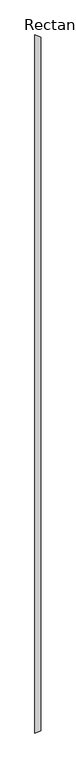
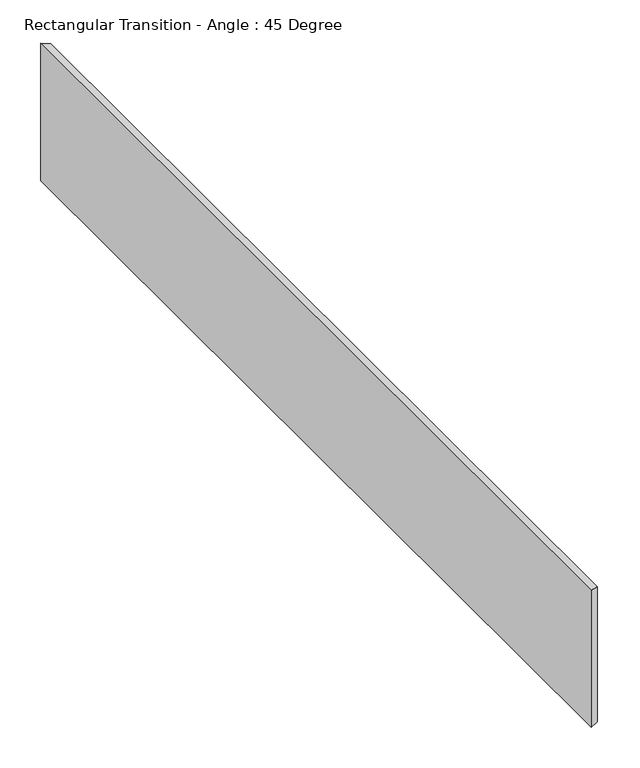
"""IFC4 building model written with IfcOpenShell, lengths in millimetres: duct fitting geometry, Rectangular Transition - Angle : 45 Degree."""

from ifc_helpers import new_model, si_unit, origin, place, context, project, spatial, faceted_brep, source, transform, mapped, element, save


def rectangular_transition_angle_45_degree_4bc87dcf(model_context):
    return source(origin(), model_context, "Body", "Brep", [
        faceted_brep([(11.4976921, -673.1, 101.6), (11.4976921, -673.1, -101.6), (11.4976921, 673.1, -101.6), (11.4976921, 673.1, 101.6), (0.0, -677.8625, 103.1875), (0.0, 677.8625, 103.1875), (0.0, 677.8625, -103.1875), (0.0, -677.8625, -103.1875)], [[[0, 1, 2, 3]], [[4, 5, 6, 7]], [[4, 7, 1, 0]], [[7, 6, 2, 1]], [[6, 5, 3, 2]], [[5, 4, 0, 3]]]),
    ])


if __name__ == "__main__":
    model = new_model("IFC4")
    model_context = context("Model", 3, world=origin())
    ifc_project = project(units=[si_unit("LENGTHUNIT", "METRE", prefix="MILLI")], contexts=[model_context])
    site = spatial("IfcSite", under=ifc_project)
    building = spatial("IfcBuilding", under=site)
    placement = place(None, origin())
    rectangular_transition_angle_45_degree_shape = rectangular_transition_angle_45_degree_4bc87dcf(model_context)
    element("IfcDuctFitting", 1, ObjectType="Rectangular Transition - Angle : 45 Degree", at=placement, inside=building, context=model_context, shape_type="MappedRepresentation", body=[
        mapped(rectangular_transition_angle_45_degree_shape, transform((0.0, 0.0, 0.0), x_axis=(1.0, 0.0, 0.0), y_axis=(0.0, 1.0, 0.0), z_axis=(0.0, 0.0, 1.0))),
    ])
    save(model, "model.ifc")
